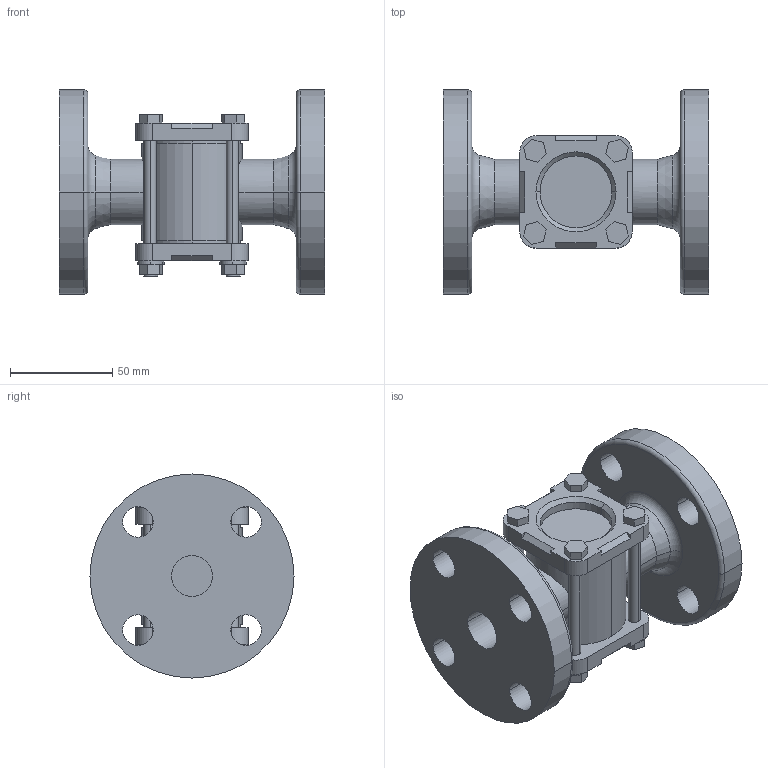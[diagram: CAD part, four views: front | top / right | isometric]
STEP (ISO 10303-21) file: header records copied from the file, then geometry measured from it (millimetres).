
FILE_DESCRIPTION (( 'STEP AP203' ), '1' );
FILE_NAME ('SF-1F 20A.STEP', '2024-09-06T01:14:18', ( '' ), ( '' ), 'SwSTEP 2.0', 'SolidWorks 2024', '' );
FILE_SCHEMA (( 'CONFIG_CONTROL_DESIGN' ));
Length unit declared in the file: millimetre
Products named in the file (1): SF-1F 20A
Bounding box: 130 x 100 x 100 mm (x, y, z)
Volume: 381266.6 mm3; surface area: 72825.7 mm2
Topology: 1 solids, 1 shells, 200 faces, 498 edges, 324 vertices
Faces by surface type: plane 114, cylinder 70, torus 8, cone 8
Entity records: 6289 total; most frequent: CARTESIAN_POINT 1237, DIRECTION 1064, ORIENTED_EDGE 996, EDGE_CURVE 498, AXIS2_PLACEMENT_3D 369, LINE 326, VECTOR 326, VERTEX_POINT 324
